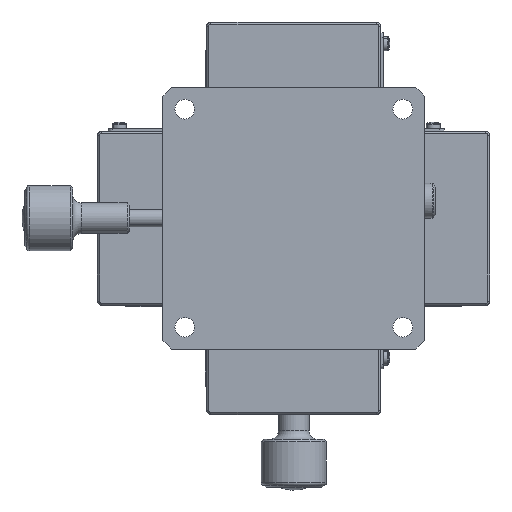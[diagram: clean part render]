
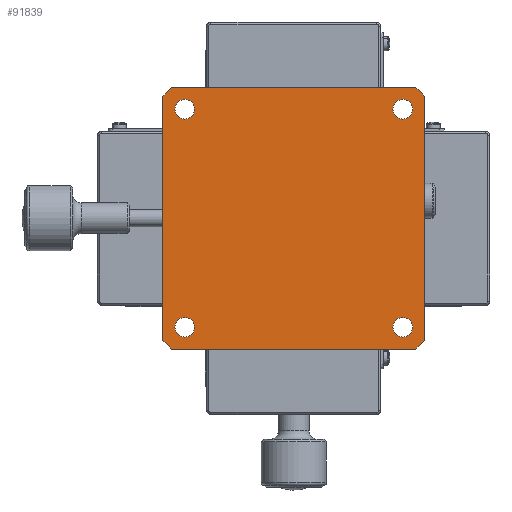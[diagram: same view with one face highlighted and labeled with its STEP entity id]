
A CAD part, front view. The second image highlights one B-rep face of the part: STEP entity #91839.
In plain terms, the highlighted planar face has unit normal (0, -1, 0).
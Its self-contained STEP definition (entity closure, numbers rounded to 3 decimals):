
#142 = DIRECTION ( 'NONE',  ( 1., 0., 0. ) ) ;
#908 = CARTESIAN_POINT ( 'NONE',  ( -25., 0., -25. ) ) ;
#1735 = CIRCLE ( 'NONE', #33318, 2.25 ) ;
#4415 = DIRECTION ( 'NONE',  ( 0., 1., 0. ) ) ;
#4688 = LINE ( 'NONE', #29626, #23506 ) ;
#5849 = CARTESIAN_POINT ( 'NONE',  ( -59., 0., 1. ) ) ;
#5927 = EDGE_LOOP ( 'NONE', ( #22206, #87155 ) ) ;
#8550 = EDGE_CURVE ( 'NONE', #32436, #89984, #81112, .T. ) ;
#8991 = DIRECTION ( 'NONE',  ( 0., 0., 1. ) ) ;
#9103 = VERTEX_POINT ( 'NONE', #78399 ) ;
#10125 = EDGE_CURVE ( 'NONE', #60835, #69327, #45914, .T. ) ;
#10211 = VECTOR ( 'NONE', #61905, 1000. ) ;
#10657 = CARTESIAN_POINT ( 'NONE',  ( -28., 0., 30. ) ) ;
#11616 = DIRECTION ( 'NONE',  ( 0., -1., 0. ) ) ;
#11707 = FACE_BOUND ( 'NONE', #5927, .T. ) ;
#12212 = AXIS2_PLACEMENT_3D ( 'NONE', #17916, #73983, #25954 ) ;
#12856 = CARTESIAN_POINT ( 'NONE',  ( 25., 0., 25. ) ) ;
#14568 = VERTEX_POINT ( 'NONE', #84526 ) ;
#14904 = EDGE_LOOP ( 'NONE', ( #46026, #32947 ) ) ;
#15953 = AXIS2_PLACEMENT_3D ( 'NONE', #65100, #17097, #73151 ) ;
#15971 = CARTESIAN_POINT ( 'NONE',  ( -30., 0., 30. ) ) ;
#16093 = LINE ( 'NONE', #35520, #56163 ) ;
#16920 = CARTESIAN_POINT ( 'NONE',  ( 25., 0., -25. ) ) ;
#17097 = DIRECTION ( 'NONE',  ( 0., 1., 0. ) ) ;
#17438 = CARTESIAN_POINT ( 'NONE',  ( -25., 0., 22.75 ) ) ;
#17916 = CARTESIAN_POINT ( 'NONE',  ( 25., 0., -25. ) ) ;
#20193 = CARTESIAN_POINT ( 'NONE',  ( -25., 0., -25. ) ) ;
#20726 = DIRECTION ( 'NONE',  ( -1., 0., 0. ) ) ;
#20922 = DIRECTION ( 'NONE',  ( 0., 0., 1. ) ) ;
#21322 = EDGE_LOOP ( 'NONE', ( #75729, #34681, #33521, #86381, #85656, #70630, #86123, #74960 ) ) ;
#21376 = CARTESIAN_POINT ( 'NONE',  ( 25., 0., 22.75 ) ) ;
#22206 = ORIENTED_EDGE ( 'NONE', *, *, #50890, .T. ) ;
#22744 = CARTESIAN_POINT ( 'NONE',  ( -25., 0., -27.25 ) ) ;
#22851 = VECTOR ( 'NONE', #101753, 1000. ) ;
#23038 = EDGE_CURVE ( 'NONE', #60056, #77709, #68173, .T. ) ;
#23416 = DIRECTION ( 'NONE',  ( 0., 1., 0. ) ) ;
#23506 = VECTOR ( 'NONE', #37685, 1000. ) ;
#24198 = CIRCLE ( 'NONE', #88462, 2.25 ) ;
#24987 = DIRECTION ( 'NONE',  ( 0., 0., 1. ) ) ;
#25544 = CARTESIAN_POINT ( 'NONE',  ( -25., 0., -22.75 ) ) ;
#25954 = DIRECTION ( 'NONE',  ( 0., 0., 1. ) ) ;
#27653 = AXIS2_PLACEMENT_3D ( 'NONE', #59583, #11616, #67684 ) ;
#28208 = DIRECTION ( 'NONE',  ( 0., 0., 1. ) ) ;
#29626 = CARTESIAN_POINT ( 'NONE',  ( 29., 0., -29. ) ) ;
#30990 = ORIENTED_EDGE ( 'NONE', *, *, #64701, .T. ) ;
#31334 = AXIS2_PLACEMENT_3D ( 'NONE', #908, #56967, #8991 ) ;
#32227 = EDGE_CURVE ( 'NONE', #60056, #57247, #16093, .T. ) ;
#32436 = VERTEX_POINT ( 'NONE', #96133 ) ;
#32947 = ORIENTED_EDGE ( 'NONE', *, *, #56376, .T. ) ;
#33318 = AXIS2_PLACEMENT_3D ( 'NONE', #71441, #23416, #79466 ) ;
#33521 = ORIENTED_EDGE ( 'NONE', *, *, #8550, .F. ) ;
#33892 = EDGE_CURVE ( 'NONE', #9103, #57247, #86803, .T. ) ;
#34681 = ORIENTED_EDGE ( 'NONE', *, *, #71306, .T. ) ;
#35520 = CARTESIAN_POINT ( 'NONE',  ( -29., 0., 29. ) ) ;
#36454 = EDGE_CURVE ( 'NONE', #14568, #46459, #74092, .T. ) ;
#37685 = DIRECTION ( 'NONE',  ( 0.707, 0., 0.707 ) ) ;
#40728 = CARTESIAN_POINT ( 'NONE',  ( 28., 0., 30. ) ) ;
#40731 = AXIS2_PLACEMENT_3D ( 'NONE', #16920, #72985, #24987 ) ;
#42513 = CARTESIAN_POINT ( 'NONE',  ( 25., 0., 27.25 ) ) ;
#42744 = CARTESIAN_POINT ( 'NONE',  ( -30., 0., 28. ) ) ;
#43454 = PLANE ( 'NONE',  #27653 ) ;
#44528 = CARTESIAN_POINT ( 'NONE',  ( -30., 0., -30. ) ) ;
#45577 = CARTESIAN_POINT ( 'NONE',  ( -30., 0., 30. ) ) ;
#45914 = CIRCLE ( 'NONE', #40731, 2.25 ) ;
#46026 = ORIENTED_EDGE ( 'NONE', *, *, #65646, .T. ) ;
#46459 = VERTEX_POINT ( 'NONE', #17438 ) ;
#46482 = VECTOR ( 'NONE', #64726, 1000. ) ;
#48071 = EDGE_LOOP ( 'NONE', ( #78228, #93779 ) ) ;
#48073 = VERTEX_POINT ( 'NONE', #25544 ) ;
#50890 = EDGE_CURVE ( 'NONE', #48073, #55918, #97406, .T. ) ;
#51438 = CARTESIAN_POINT ( 'NONE',  ( 30., 0., -28. ) ) ;
#51541 = LINE ( 'NONE', #88594, #46482 ) ;
#51784 = FACE_OUTER_BOUND ( 'NONE', #21322, .T. ) ;
#52424 = CARTESIAN_POINT ( 'NONE',  ( 25., 0., -27.25 ) ) ;
#52435 = CARTESIAN_POINT ( 'NONE',  ( 25., 0., 25. ) ) ;
#52791 = LINE ( 'NONE', #5849, #10211 ) ;
#54268 = FACE_BOUND ( 'NONE', #85182, .T. ) ;
#55918 = VERTEX_POINT ( 'NONE', #22744 ) ;
#56163 = VECTOR ( 'NONE', #59700, 1000. ) ;
#56376 = EDGE_CURVE ( 'NONE', #69118, #82870, #77868, .T. ) ;
#56967 = DIRECTION ( 'NONE',  ( 0., 1., 0. ) ) ;
#57247 = VERTEX_POINT ( 'NONE', #42744 ) ;
#58682 = VECTOR ( 'NONE', #142, 1000. ) ;
#59583 = CARTESIAN_POINT ( 'NONE',  ( -30., 0., 30. ) ) ;
#59700 = DIRECTION ( 'NONE',  ( -0.707, 0., -0.707 ) ) ;
#59803 = VECTOR ( 'NONE', #20726, 1000. ) ;
#60056 = VERTEX_POINT ( 'NONE', #10657 ) ;
#60481 = DIRECTION ( 'NONE',  ( 0., 0., 1. ) ) ;
#60835 = VERTEX_POINT ( 'NONE', #80362 ) ;
#61905 = DIRECTION ( 'NONE',  ( 0.707, 0., -0.707 ) ) ;
#62178 = AXIS2_PLACEMENT_3D ( 'NONE', #20193, #76275, #28208 ) ;
#64483 = AXIS2_PLACEMENT_3D ( 'NONE', #52435, #4415, #60481 ) ;
#64701 = EDGE_CURVE ( 'NONE', #46459, #14568, #1735, .T. ) ;
#64726 = DIRECTION ( 'NONE',  ( 0., 0., -1. ) ) ;
#65100 = CARTESIAN_POINT ( 'NONE',  ( -25., 0., 25. ) ) ;
#65646 = EDGE_CURVE ( 'NONE', #82870, #69118, #24198, .T. ) ;
#66808 = CIRCLE ( 'NONE', #12212, 2.25 ) ;
#67684 = DIRECTION ( 'NONE',  ( 0., 0., -1. ) ) ;
#68173 = LINE ( 'NONE', #15971, #58682 ) ;
#68935 = DIRECTION ( 'NONE',  ( 0., 1., 0. ) ) ;
#69118 = VERTEX_POINT ( 'NONE', #21376 ) ;
#69327 = VERTEX_POINT ( 'NONE', #52424 ) ;
#70161 = EDGE_CURVE ( 'NONE', #69327, #60835, #66808, .T. ) ;
#70630 = ORIENTED_EDGE ( 'NONE', *, *, #91119, .T. ) ;
#71306 = EDGE_CURVE ( 'NONE', #9103, #89984, #52791, .T. ) ;
#71441 = CARTESIAN_POINT ( 'NONE',  ( -25., 0., 25. ) ) ;
#72985 = DIRECTION ( 'NONE',  ( 0., 1., 0. ) ) ;
#73117 = FACE_BOUND ( 'NONE', #14904, .T. ) ;
#73151 = DIRECTION ( 'NONE',  ( 0., 0., 1. ) ) ;
#73983 = DIRECTION ( 'NONE',  ( 0., 1., 0. ) ) ;
#74092 = CIRCLE ( 'NONE', #15953, 2.25 ) ;
#74960 = ORIENTED_EDGE ( 'NONE', *, *, #32227, .T. ) ;
#75666 = FACE_BOUND ( 'NONE', #48071, .T. ) ;
#75729 = ORIENTED_EDGE ( 'NONE', *, *, #33892, .F. ) ;
#76275 = DIRECTION ( 'NONE',  ( 0., 1., 0. ) ) ;
#77335 = EDGE_CURVE ( 'NONE', #55918, #48073, #97225, .T. ) ;
#77709 = VERTEX_POINT ( 'NONE', #40728 ) ;
#77868 = CIRCLE ( 'NONE', #64483, 2.25 ) ;
#78228 = ORIENTED_EDGE ( 'NONE', *, *, #10125, .T. ) ;
#78337 = DIRECTION ( 'NONE',  ( -0.707, 0., 0.707 ) ) ;
#78399 = CARTESIAN_POINT ( 'NONE',  ( -30., 0., -28. ) ) ;
#79139 = VERTEX_POINT ( 'NONE', #85389 ) ;
#79466 = DIRECTION ( 'NONE',  ( 0., 0., 1. ) ) ;
#80362 = CARTESIAN_POINT ( 'NONE',  ( 25., 0., -22.75 ) ) ;
#81112 = LINE ( 'NONE', #44528, #59803 ) ;
#82870 = VERTEX_POINT ( 'NONE', #42513 ) ;
#83780 = EDGE_CURVE ( 'NONE', #79139, #95605, #51541, .T. ) ;
#84526 = CARTESIAN_POINT ( 'NONE',  ( -25., 0., 27.25 ) ) ;
#85182 = EDGE_LOOP ( 'NONE', ( #103113, #30990 ) ) ;
#85389 = CARTESIAN_POINT ( 'NONE',  ( 30., 0., 28. ) ) ;
#85656 = ORIENTED_EDGE ( 'NONE', *, *, #83780, .F. ) ;
#85826 = CARTESIAN_POINT ( 'NONE',  ( -28., 0., -30. ) ) ;
#86123 = ORIENTED_EDGE ( 'NONE', *, *, #23038, .F. ) ;
#86381 = ORIENTED_EDGE ( 'NONE', *, *, #86931, .T. ) ;
#86410 = CARTESIAN_POINT ( 'NONE',  ( -1., 0., 59. ) ) ;
#86803 = LINE ( 'NONE', #45577, #22851 ) ;
#86931 = EDGE_CURVE ( 'NONE', #32436, #95605, #4688, .T. ) ;
#87155 = ORIENTED_EDGE ( 'NONE', *, *, #77335, .T. ) ;
#88462 = AXIS2_PLACEMENT_3D ( 'NONE', #12856, #68935, #20922 ) ;
#88594 = CARTESIAN_POINT ( 'NONE',  ( 30., 0., 30. ) ) ;
#89984 = VERTEX_POINT ( 'NONE', #85826 ) ;
#91119 = EDGE_CURVE ( 'NONE', #79139, #77709, #99628, .T. ) ;
#91839 = ADVANCED_FACE ( 'NONE', ( #75666, #11707, #73117, #54268, #51784 ), #43454, .T. ) ;
#93779 = ORIENTED_EDGE ( 'NONE', *, *, #70161, .T. ) ;
#95605 = VERTEX_POINT ( 'NONE', #51438 ) ;
#96133 = CARTESIAN_POINT ( 'NONE',  ( 28., 0., -30. ) ) ;
#97079 = VECTOR ( 'NONE', #78337, 1000. ) ;
#97225 = CIRCLE ( 'NONE', #62178, 2.25 ) ;
#97406 = CIRCLE ( 'NONE', #31334, 2.25 ) ;
#99628 = LINE ( 'NONE', #86410, #97079 ) ;
#101753 = DIRECTION ( 'NONE',  ( 0., 0., 1. ) ) ;
#103113 = ORIENTED_EDGE ( 'NONE', *, *, #36454, .T. ) ;
